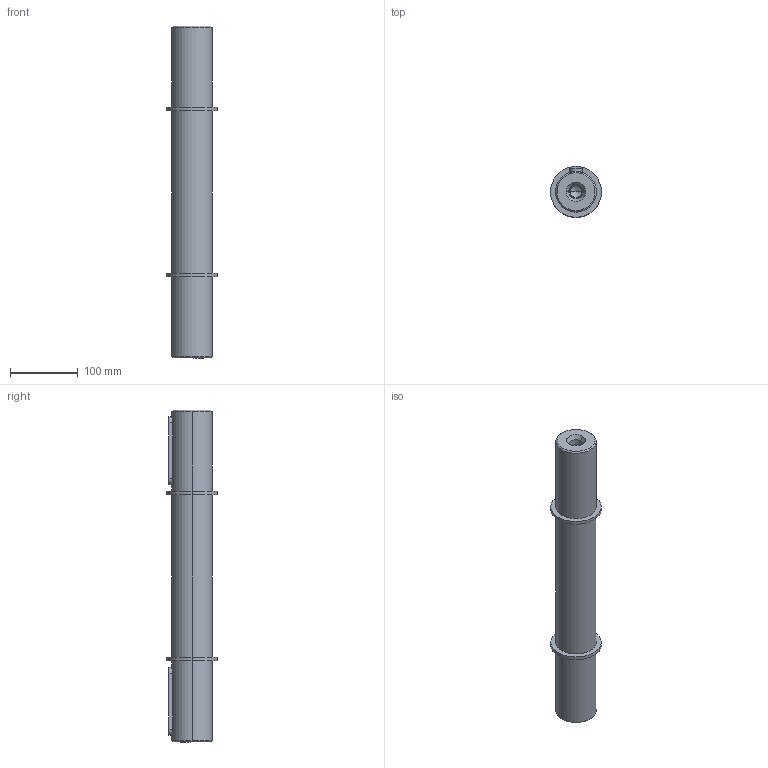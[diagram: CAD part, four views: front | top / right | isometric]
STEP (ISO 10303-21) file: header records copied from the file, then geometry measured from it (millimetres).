
FILE_DESCRIPTION(/* description */ (''),/* implementation_level */ '2;1');
FILE_NAME(/* name */ '5_ALBERO LENTO BISPORGENTE B123',/* time_stamp */ '2025-10-22T11:21:03+02:00',/* author */ (''),/* organization */ (''),/* preprocessor_version */ 'ST-DEVELOPER v19.2',/* originating_system */ 'Rhino 8.23',/* authorisation */ '');
FILE_SCHEMA (('CONFIG_CONTROL_DESIGN'));
Length unit declared in the file: millimetre
Products named in the file (2): Document; Albero 60x120-(1232)
Bounding box: 75 x 75 x 490 mm (x, y, z)
Volume: 1385426.7 mm3; surface area: 112528.6 mm2
Topology: 1 solids, 1 shells, 52 faces, 111 edges, 67 vertices
Faces by surface type: cylinder 22, bspline 16, plane 14
Entity records: 1745 total; most frequent: CARTESIAN_POINT 570, ORIENTED_EDGE 214, DIRECTION 150, EDGE_CURVE 107, AXIS2_PLACEMENT_3D 93, VERTEX_POINT 67, EDGE_LOOP 62, B_SPLINE_CURVE_WITH_KNOTS 54
